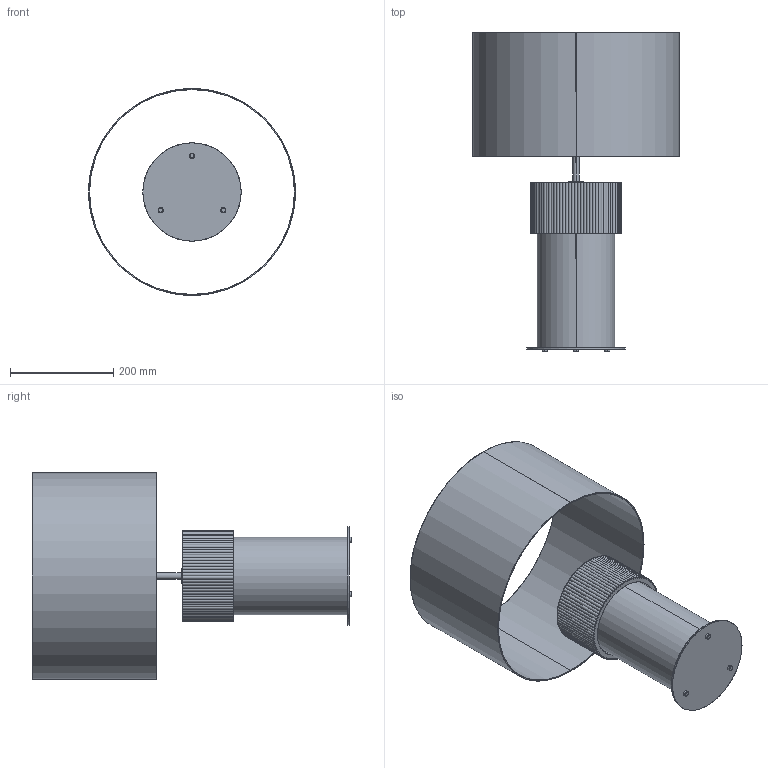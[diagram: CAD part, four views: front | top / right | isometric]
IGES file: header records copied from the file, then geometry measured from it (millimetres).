
Start section: SolidWorks IGES file using analytic representation for surfaces
Global section: file name: C:\Users\Agustin\Desktop\ENERO 2025\2D-3D\2D-3D ROCK_NAC141\ROCK_NAC141_S.IGS; native system: SolidWorks 2018; preprocessor: SolidWorks 2018; author: Agustin; date: 250306.093359; units: millimetre
Bounding box: 400 x 618 x 400 mm (x, y, z)
Surface area: 1126892.8 mm2 (no closed solid volume)
Topology: 0 solids, 0 shells, 180 faces, 3520 edges, 3520 vertices
Faces by surface type: revolution 155, bspline 25
